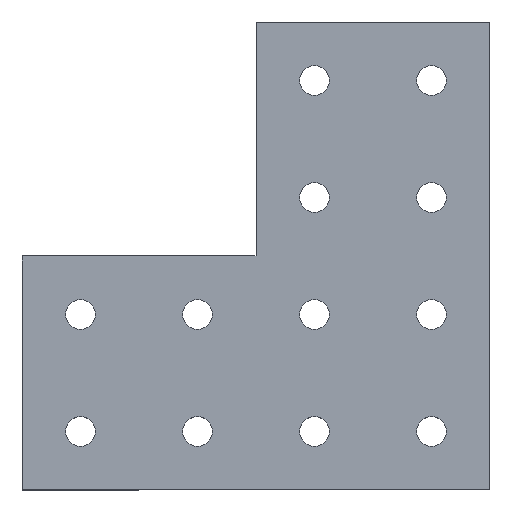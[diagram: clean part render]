
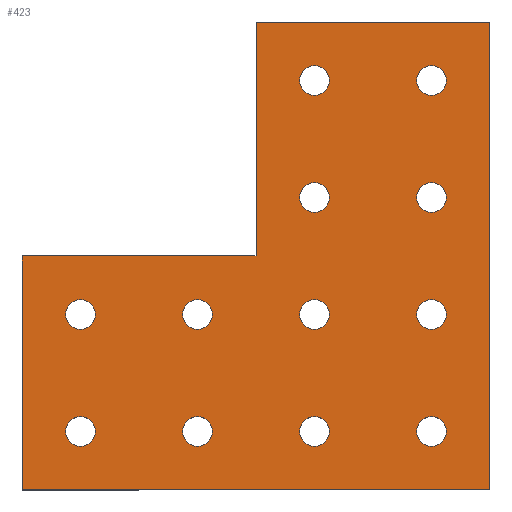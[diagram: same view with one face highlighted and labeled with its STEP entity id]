
A CAD part, top view. The second image highlights one B-rep face of the part: STEP entity #423.
In plain terms, the highlighted planar face has unit normal (0, 0, 1).
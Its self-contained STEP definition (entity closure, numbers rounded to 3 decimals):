
#15=FACE_BOUND('',#86,.T.);
#16=FACE_BOUND('',#87,.T.);
#17=FACE_BOUND('',#88,.T.);
#18=FACE_BOUND('',#89,.T.);
#19=FACE_BOUND('',#90,.T.);
#20=FACE_BOUND('',#91,.T.);
#21=FACE_BOUND('',#92,.T.);
#22=FACE_BOUND('',#93,.T.);
#23=FACE_BOUND('',#94,.T.);
#24=FACE_BOUND('',#95,.T.);
#25=FACE_BOUND('',#96,.T.);
#26=FACE_BOUND('',#97,.T.);
#45=PLANE('',#481);
#65=FACE_OUTER_BOUND('',#85,.T.);
#85=EDGE_LOOP('',(#357,#358,#359,#360,#361,#362));
#86=EDGE_LOOP('',(#363));
#87=EDGE_LOOP('',(#364));
#88=EDGE_LOOP('',(#365));
#89=EDGE_LOOP('',(#366));
#90=EDGE_LOOP('',(#367));
#91=EDGE_LOOP('',(#368));
#92=EDGE_LOOP('',(#369));
#93=EDGE_LOOP('',(#370));
#94=EDGE_LOOP('',(#371));
#95=EDGE_LOOP('',(#372));
#96=EDGE_LOOP('',(#373));
#97=EDGE_LOOP('',(#374));
#125=LINE('',#683,#155);
#128=LINE('',#689,#158);
#131=LINE('',#695,#161);
#134=LINE('',#701,#164);
#137=LINE('',#707,#167);
#140=LINE('',#711,#170);
#155=VECTOR('',#573,10.);
#158=VECTOR('',#578,10.);
#161=VECTOR('',#583,10.);
#164=VECTOR('',#588,10.);
#167=VECTOR('',#593,10.);
#170=VECTOR('',#598,10.);
#172=CIRCLE('',#441,2.55);
#174=CIRCLE('',#444,2.55);
#176=CIRCLE('',#447,2.55);
#178=CIRCLE('',#450,2.55);
#180=CIRCLE('',#453,2.55);
#182=CIRCLE('',#456,2.55);
#184=CIRCLE('',#459,2.55);
#186=CIRCLE('',#462,2.55);
#188=CIRCLE('',#465,2.55);
#190=CIRCLE('',#468,2.55);
#192=CIRCLE('',#471,2.55);
#194=CIRCLE('',#474,2.55);
#196=VERTEX_POINT('',#607);
#198=VERTEX_POINT('',#613);
#200=VERTEX_POINT('',#619);
#202=VERTEX_POINT('',#625);
#204=VERTEX_POINT('',#631);
#206=VERTEX_POINT('',#637);
#208=VERTEX_POINT('',#643);
#210=VERTEX_POINT('',#649);
#212=VERTEX_POINT('',#655);
#214=VERTEX_POINT('',#661);
#216=VERTEX_POINT('',#667);
#218=VERTEX_POINT('',#673);
#221=VERTEX_POINT('',#680);
#222=VERTEX_POINT('',#682);
#224=VERTEX_POINT('',#688);
#226=VERTEX_POINT('',#694);
#228=VERTEX_POINT('',#700);
#230=VERTEX_POINT('',#706);
#233=EDGE_CURVE('',#196,#196,#172,.T.);
#236=EDGE_CURVE('',#198,#198,#174,.T.);
#239=EDGE_CURVE('',#200,#200,#176,.T.);
#242=EDGE_CURVE('',#202,#202,#178,.T.);
#245=EDGE_CURVE('',#204,#204,#180,.T.);
#248=EDGE_CURVE('',#206,#206,#182,.T.);
#251=EDGE_CURVE('',#208,#208,#184,.T.);
#254=EDGE_CURVE('',#210,#210,#186,.T.);
#257=EDGE_CURVE('',#212,#212,#188,.T.);
#260=EDGE_CURVE('',#214,#214,#190,.T.);
#263=EDGE_CURVE('',#216,#216,#192,.T.);
#266=EDGE_CURVE('',#218,#218,#194,.T.);
#269=EDGE_CURVE('',#222,#221,#125,.T.);
#272=EDGE_CURVE('',#224,#222,#128,.T.);
#275=EDGE_CURVE('',#226,#224,#131,.T.);
#278=EDGE_CURVE('',#228,#226,#134,.T.);
#281=EDGE_CURVE('',#230,#228,#137,.T.);
#284=EDGE_CURVE('',#221,#230,#140,.T.);
#357=ORIENTED_EDGE('',*,*,#284,.T.);
#358=ORIENTED_EDGE('',*,*,#281,.T.);
#359=ORIENTED_EDGE('',*,*,#278,.T.);
#360=ORIENTED_EDGE('',*,*,#275,.T.);
#361=ORIENTED_EDGE('',*,*,#272,.T.);
#362=ORIENTED_EDGE('',*,*,#269,.T.);
#363=ORIENTED_EDGE('',*,*,#266,.T.);
#364=ORIENTED_EDGE('',*,*,#263,.T.);
#365=ORIENTED_EDGE('',*,*,#260,.T.);
#366=ORIENTED_EDGE('',*,*,#257,.T.);
#367=ORIENTED_EDGE('',*,*,#254,.T.);
#368=ORIENTED_EDGE('',*,*,#251,.T.);
#369=ORIENTED_EDGE('',*,*,#248,.T.);
#370=ORIENTED_EDGE('',*,*,#245,.T.);
#371=ORIENTED_EDGE('',*,*,#242,.T.);
#372=ORIENTED_EDGE('',*,*,#239,.T.);
#373=ORIENTED_EDGE('',*,*,#236,.T.);
#374=ORIENTED_EDGE('',*,*,#233,.T.);
#423=ADVANCED_FACE('',(#65,#15,#16,#17,#18,#19,#20,#21,#22,#23,#24,#25,
#26),#45,.T.);
#441=AXIS2_PLACEMENT_3D('',#609,#490,#491);
#444=AXIS2_PLACEMENT_3D('',#615,#497,#498);
#447=AXIS2_PLACEMENT_3D('',#621,#504,#505);
#450=AXIS2_PLACEMENT_3D('',#627,#511,#512);
#453=AXIS2_PLACEMENT_3D('',#633,#518,#519);
#456=AXIS2_PLACEMENT_3D('',#639,#525,#526);
#459=AXIS2_PLACEMENT_3D('',#645,#532,#533);
#462=AXIS2_PLACEMENT_3D('',#651,#539,#540);
#465=AXIS2_PLACEMENT_3D('',#657,#546,#547);
#468=AXIS2_PLACEMENT_3D('',#663,#553,#554);
#471=AXIS2_PLACEMENT_3D('',#669,#560,#561);
#474=AXIS2_PLACEMENT_3D('',#675,#567,#568);
#481=AXIS2_PLACEMENT_3D('',#712,#599,#600);
#490=DIRECTION('center_axis',(0.,0.,-1.));
#491=DIRECTION('ref_axis',(0.,1.,0.));
#497=DIRECTION('center_axis',(0.,0.,-1.));
#498=DIRECTION('ref_axis',(0.,1.,0.));
#504=DIRECTION('center_axis',(0.,0.,-1.));
#505=DIRECTION('ref_axis',(0.,1.,0.));
#511=DIRECTION('center_axis',(0.,0.,-1.));
#512=DIRECTION('ref_axis',(0.,1.,0.));
#518=DIRECTION('center_axis',(0.,0.,-1.));
#519=DIRECTION('ref_axis',(0.,1.,0.));
#525=DIRECTION('center_axis',(0.,0.,-1.));
#526=DIRECTION('ref_axis',(0.,1.,0.));
#532=DIRECTION('center_axis',(0.,0.,-1.));
#533=DIRECTION('ref_axis',(0.,1.,0.));
#539=DIRECTION('center_axis',(0.,0.,-1.));
#540=DIRECTION('ref_axis',(0.,1.,0.));
#546=DIRECTION('center_axis',(0.,0.,-1.));
#547=DIRECTION('ref_axis',(0.,1.,0.));
#553=DIRECTION('center_axis',(0.,0.,-1.));
#554=DIRECTION('ref_axis',(0.,1.,0.));
#560=DIRECTION('center_axis',(0.,0.,-1.));
#561=DIRECTION('ref_axis',(0.,1.,0.));
#567=DIRECTION('center_axis',(0.,0.,-1.));
#568=DIRECTION('ref_axis',(0.,1.,0.));
#573=DIRECTION('',(0.,-1.,0.));
#578=DIRECTION('',(-1.,0.,0.));
#583=DIRECTION('',(0.,-1.,0.));
#588=DIRECTION('',(-1.,0.,0.));
#593=DIRECTION('',(0.,1.,0.));
#598=DIRECTION('',(1.,0.,0.));
#599=DIRECTION('center_axis',(0.,0.,1.));
#600=DIRECTION('ref_axis',(0.,1.,0.));
#607=CARTESIAN_POINT('',(-10.,7.45,4.));
#609=CARTESIAN_POINT('Origin',(-10.,10.,4.));
#613=CARTESIAN_POINT('',(-10.,27.45,4.));
#615=CARTESIAN_POINT('Origin',(-10.,30.,4.));
#619=CARTESIAN_POINT('',(-70.,7.45,4.));
#621=CARTESIAN_POINT('Origin',(-70.,10.,4.));
#625=CARTESIAN_POINT('',(-10.,67.45,4.));
#627=CARTESIAN_POINT('Origin',(-10.,70.,4.));
#631=CARTESIAN_POINT('',(-50.,27.45,4.));
#633=CARTESIAN_POINT('Origin',(-50.,30.,4.));
#637=CARTESIAN_POINT('',(-50.,7.45,4.));
#639=CARTESIAN_POINT('Origin',(-50.,10.,4.));
#643=CARTESIAN_POINT('',(-10.,47.45,4.));
#645=CARTESIAN_POINT('Origin',(-10.,50.,4.));
#649=CARTESIAN_POINT('',(-30.,67.45,4.));
#651=CARTESIAN_POINT('Origin',(-30.,70.,4.));
#655=CARTESIAN_POINT('',(-70.,27.45,4.));
#657=CARTESIAN_POINT('Origin',(-70.,30.,4.));
#661=CARTESIAN_POINT('',(-30.,47.45,4.));
#663=CARTESIAN_POINT('Origin',(-30.,50.,4.));
#667=CARTESIAN_POINT('',(-30.,7.45,4.));
#669=CARTESIAN_POINT('Origin',(-30.,10.,4.));
#673=CARTESIAN_POINT('',(-30.,27.45,4.));
#675=CARTESIAN_POINT('Origin',(-30.,30.,4.));
#680=CARTESIAN_POINT('',(-80.,0.,4.));
#682=CARTESIAN_POINT('',(-80.,40.,4.));
#683=CARTESIAN_POINT('',(-80.,40.,4.));
#688=CARTESIAN_POINT('',(-40.,40.,4.));
#689=CARTESIAN_POINT('',(-40.,40.,4.));
#694=CARTESIAN_POINT('',(-40.,80.,4.));
#695=CARTESIAN_POINT('',(-40.,80.,4.));
#700=CARTESIAN_POINT('',(0.,80.,4.));
#701=CARTESIAN_POINT('',(0.,80.,4.));
#706=CARTESIAN_POINT('',(0.,0.,4.));
#707=CARTESIAN_POINT('',(0.,0.,4.));
#711=CARTESIAN_POINT('',(-80.,0.,4.));
#712=CARTESIAN_POINT('Origin',(-40.,40.,4.));
